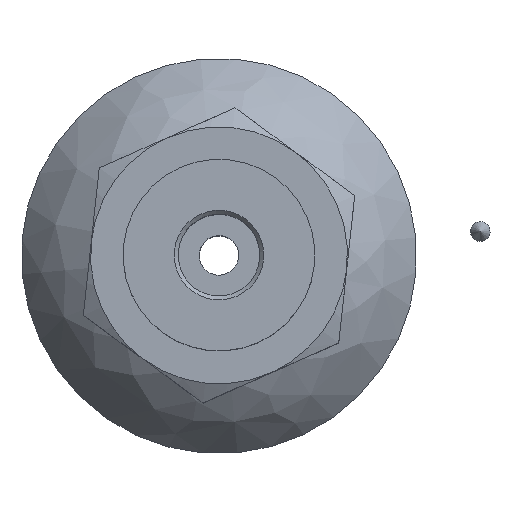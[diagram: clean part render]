
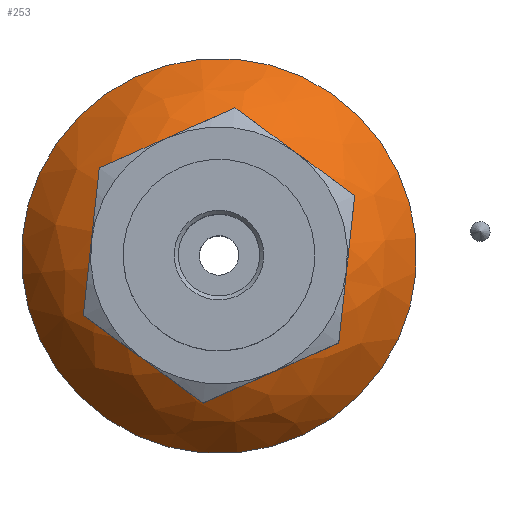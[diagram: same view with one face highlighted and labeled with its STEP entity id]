
A CAD part, top view. The second image highlights one B-rep face of the part: STEP entity #253.
In plain terms, the highlighted free-form (B-spline) face has degree [3, 3] with [4, 7] control points.
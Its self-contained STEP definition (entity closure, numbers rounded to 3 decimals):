
#253=ADVANCED_FACE('',(#474,#475),#476,.T.);
#474=FACE_OUTER_BOUND('',#666,.T.);
#475=FACE_OUTER_BOUND('',#667,.T.);
#476=(B_SPLINE_SURFACE(3,3,((#669,#670,#671,#672,#673,#674,#675),(#676,#677,#678,#679,#680,#681,#682),(#683,#684,#685,#686,#687,#688,#689),(#690,#691,#692,#693,#694,#695,#696)),.UNSPECIFIED.,.F.,.T.,.F.)B_SPLINE_SURFACE_WITH_KNOTS((4,4),(4,3,4),(0.0,6.283),(-1.318,-0.927,-0.536),.UNSPECIFIED.)RATIONAL_B_SPLINE_SURFACE(((1.0,0.333,0.333,1.0,0.333,0.333,1.0),(0.95,0.317,0.317,0.95,0.317,0.317,0.95),(0.95,0.317,0.317,0.95,0.317,0.317,0.95),(1.0,0.333,0.333,1.0,0.333,0.333,1.0)))BOUNDED_SURFACE()REPRESENTATION_ITEM('')GEOMETRIC_REPRESENTATION_ITEM()SURFACE());
#666=EDGE_LOOP('',(#1054));
#667=EDGE_LOOP('',(#1055));
#669=CARTESIAN_POINT('',(-10.0,0.0,-4.5));
#670=CARTESIAN_POINT('',(-10.0,20.0,-4.5));
#671=CARTESIAN_POINT('',(10.0,20.0,-4.5));
#672=CARTESIAN_POINT('',(10.0,0.0,-4.5));
#673=CARTESIAN_POINT('',(10.0,-20.0,-4.5));
#674=CARTESIAN_POINT('',(-10.0,-20.0,-4.5));
#675=CARTESIAN_POINT('',(-10.0,0.0,-4.5));
#676=CARTESIAN_POINT('',(-8.655,0.0,-2.237));
#677=CARTESIAN_POINT('',(-8.655,17.31,-2.237));
#678=CARTESIAN_POINT('',(8.655,17.31,-2.237));
#679=CARTESIAN_POINT('',(8.655,0.0,-2.237));
#680=CARTESIAN_POINT('',(8.655,-17.31,-2.237));
#681=CARTESIAN_POINT('',(-8.655,-17.31,-2.237));
#682=CARTESIAN_POINT('',(-8.655,0.0,-2.237));
#683=CARTESIAN_POINT('',(-6.549,0.0,-0.658));
#684=CARTESIAN_POINT('',(-6.549,13.098,-0.658));
#685=CARTESIAN_POINT('',(6.549,13.098,-0.658));
#686=CARTESIAN_POINT('',(6.549,0.0,-0.658));
#687=CARTESIAN_POINT('',(6.549,-13.098,-0.658));
#688=CARTESIAN_POINT('',(-6.549,-13.098,-0.658));
#689=CARTESIAN_POINT('',(-6.549,0.0,-0.658));
#690=CARTESIAN_POINT('',(-4.0,0.0,0.));
#691=CARTESIAN_POINT('',(-4.0,8.0,0.));
#692=CARTESIAN_POINT('',(4.0,8.0,0.));
#693=CARTESIAN_POINT('',(4.0,0.0,0.));
#694=CARTESIAN_POINT('',(4.0,-8.0,0.));
#695=CARTESIAN_POINT('',(-4.0,-8.0,0.));
#696=CARTESIAN_POINT('',(-4.0,0.0,0.));
#1054=ORIENTED_EDGE('',*,*,#1163,.F.);
#1055=ORIENTED_EDGE('',*,*,#1171,.T.);
#1163=EDGE_CURVE('',#1320,#1320,#1321,.T.);
#1171=EDGE_CURVE('',#1333,#1333,#1334,.T.);
#1320=VERTEX_POINT('',#1586);
#1321=CIRCLE('',#1587,10.0);
#1333=VERTEX_POINT('',#1599);
#1334=CIRCLE('',#1600,4.0);
#1586=CARTESIAN_POINT('',(-10.0,0.0,-4.5));
#1587=AXIS2_PLACEMENT_3D('',#1705,#1706,#1707);
#1599=CARTESIAN_POINT('',(-4.0,0.0,0.));
#1600=AXIS2_PLACEMENT_3D('',#1720,#1721,#1722);
#1705=CARTESIAN_POINT('',(0.0,0.0,-4.5));
#1706=DIRECTION('',(0.0,0.0,-1.0));
#1707=DIRECTION('',(-1.0,0.0,0.0));
#1720=CARTESIAN_POINT('',(0.0,0.0,0.));
#1721=DIRECTION('',(0.0,0.0,-1.0));
#1722=DIRECTION('',(-1.0,0.0,0.0));
